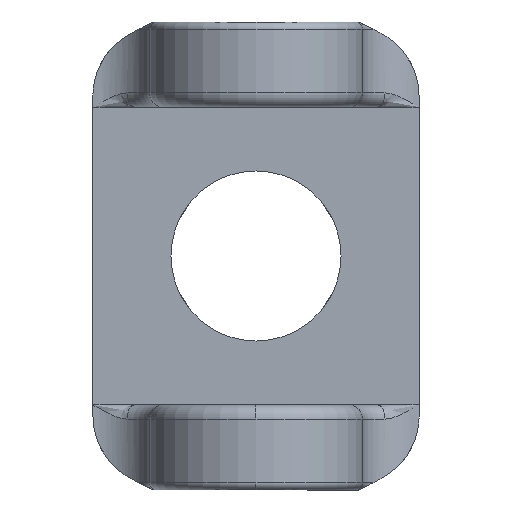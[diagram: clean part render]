
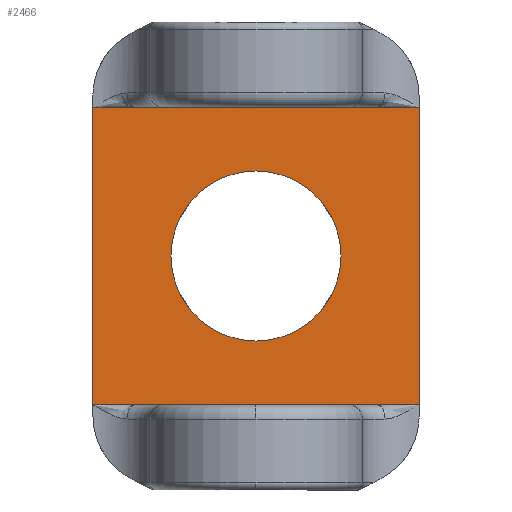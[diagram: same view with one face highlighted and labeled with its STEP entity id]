
A CAD part, left-side view. The second image highlights one B-rep face of the part: STEP entity #2466.
In plain terms, the highlighted planar face has unit normal (-1, 0, 0).
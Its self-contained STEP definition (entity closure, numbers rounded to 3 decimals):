
#11 = AXIS2_PLACEMENT_3D ( 'NONE', #2886, #3134, #3186 ) ;
#118 = DIRECTION ( 'NONE',  ( 0., 0., 1. ) ) ;
#125 = EDGE_CURVE ( 'NONE', #2542, #1724, #1445, .T. ) ;
#261 = ORIENTED_EDGE ( 'NONE', *, *, #2002, .T. ) ;
#266 = ORIENTED_EDGE ( 'NONE', *, *, #3130, .F. ) ;
#283 = CARTESIAN_POINT ( 'NONE',  ( 385.63, -811.782, 6. ) ) ;
#310 = CARTESIAN_POINT ( 'NONE',  ( 385.63, -801.432, 5. ) ) ;
#334 = EDGE_CURVE ( 'NONE', #898, #1448, #2958, .T. ) ;
#680 = DIRECTION ( 'NONE',  ( -1., 0., 0. ) ) ;
#755 = EDGE_CURVE ( 'NONE', #1953, #2059, #2237, .T. ) ;
#758 = LINE ( 'NONE', #2749, #2123 ) ;
#800 = DIRECTION ( 'NONE',  ( 0., -1., 0. ) ) ;
#866 = DIRECTION ( 'NONE',  ( 0., -1., 0. ) ) ;
#884 = VERTEX_POINT ( 'NONE', #2677 ) ;
#897 = CARTESIAN_POINT ( 'NONE',  ( 385.63, -811.782, 27. ) ) ;
#898 = VERTEX_POINT ( 'NONE', #952 ) ;
#918 = EDGE_CURVE ( 'NONE', #2059, #1724, #967, .T. ) ;
#952 = CARTESIAN_POINT ( 'NONE',  ( 385.63, -823.282, 22.5 ) ) ;
#967 = LINE ( 'NONE', #2154, #1837 ) ;
#976 = EDGE_CURVE ( 'NONE', #3437, #2908, #758, .T. ) ;
#1120 = VERTEX_POINT ( 'NONE', #2551 ) ;
#1167 = DIRECTION ( 'NONE',  ( 1., 0., 0. ) ) ;
#1193 = ORIENTED_EDGE ( 'NONE', *, *, #918, .F. ) ;
#1208 = ORIENTED_EDGE ( 'NONE', *, *, #755, .F. ) ;
#1252 = VECTOR ( 'NONE', #3246, 1000. ) ;
#1348 = CARTESIAN_POINT ( 'NONE',  ( 385.63, -811.782, 27. ) ) ;
#1371 = CARTESIAN_POINT ( 'NONE',  ( 385.63, -834.782, 27. ) ) ;
#1377 = CARTESIAN_POINT ( 'NONE',  ( 385.63, -834.782, 6. ) ) ;
#1441 = EDGE_CURVE ( 'NONE', #3437, #1120, #2278, .T. ) ;
#1445 = LINE ( 'NONE', #283, #2876 ) ;
#1448 = VERTEX_POINT ( 'NONE', #3524 ) ;
#1477 = CARTESIAN_POINT ( 'NONE',  ( 385.63, -823.282, 16.5 ) ) ;
#1637 = LINE ( 'NONE', #1880, #3576 ) ;
#1724 = VERTEX_POINT ( 'NONE', #1377 ) ;
#1725 = DIRECTION ( 'NONE',  ( 0., -1., 0. ) ) ;
#1735 = FACE_OUTER_BOUND ( 'NONE', #2754, .T. ) ;
#1766 = VECTOR ( 'NONE', #2508, 1000. ) ;
#1837 = VECTOR ( 'NONE', #3271, 1000. ) ;
#1841 = AXIS2_PLACEMENT_3D ( 'NONE', #310, #1167, #3362 ) ;
#1865 = CARTESIAN_POINT ( 'NONE',  ( 385.63, -831.782, 27. ) ) ;
#1874 = DIRECTION ( 'NONE',  ( 0., -1., 0. ) ) ;
#1880 = CARTESIAN_POINT ( 'NONE',  ( 385.63, -811.782, 6. ) ) ;
#1953 = VERTEX_POINT ( 'NONE', #1865 ) ;
#2002 = EDGE_CURVE ( 'NONE', #1120, #2542, #1637, .T. ) ;
#2046 = VECTOR ( 'NONE', #866, 1000. ) ;
#2059 = VERTEX_POINT ( 'NONE', #1371 ) ;
#2111 = ORIENTED_EDGE ( 'NONE', *, *, #3044, .F. ) ;
#2123 = VECTOR ( 'NONE', #2464, 1000. ) ;
#2154 = CARTESIAN_POINT ( 'NONE',  ( 385.63, -834.782, 30.347 ) ) ;
#2177 = ORIENTED_EDGE ( 'NONE', *, *, #1441, .T. ) ;
#2207 = CIRCLE ( 'NONE', #11, 6. ) ;
#2237 = LINE ( 'NONE', #3419, #2046 ) ;
#2261 = CARTESIAN_POINT ( 'NONE',  ( 385.63, -811.782, 6. ) ) ;
#2278 = LINE ( 'NONE', #2563, #1252 ) ;
#2282 = FACE_BOUND ( 'NONE', #2398, .T. ) ;
#2398 = EDGE_LOOP ( 'NONE', ( #3080, #2111 ) ) ;
#2464 = DIRECTION ( 'NONE',  ( 0., 0., 1. ) ) ;
#2466 = ADVANCED_FACE ( 'NONE', ( #2282, #1735 ), #2865, .F. ) ;
#2469 = AXIS2_PLACEMENT_3D ( 'NONE', #1477, #680, #118 ) ;
#2508 = DIRECTION ( 'NONE',  ( 0., -1., 0. ) ) ;
#2542 = VERTEX_POINT ( 'NONE', #2885 ) ;
#2551 = CARTESIAN_POINT ( 'NONE',  ( 385.63, -814.782, 6. ) ) ;
#2563 = CARTESIAN_POINT ( 'NONE',  ( 385.63, -811.782, 6. ) ) ;
#2676 = ORIENTED_EDGE ( 'NONE', *, *, #125, .T. ) ;
#2677 = CARTESIAN_POINT ( 'NONE',  ( 385.63, -814.782, 27. ) ) ;
#2749 = CARTESIAN_POINT ( 'NONE',  ( 385.63, -811.782, 2.653 ) ) ;
#2754 = EDGE_LOOP ( 'NONE', ( #2177, #261, #2676, #1193, #1208, #3093, #266, #3001 ) ) ;
#2865 = PLANE ( 'NONE',  #1841 ) ;
#2876 = VECTOR ( 'NONE', #1725, 1000. ) ;
#2885 = CARTESIAN_POINT ( 'NONE',  ( 385.63, -831.782, 6. ) ) ;
#2886 = CARTESIAN_POINT ( 'NONE',  ( 385.63, -823.282, 16.5 ) ) ;
#2908 = VERTEX_POINT ( 'NONE', #897 ) ;
#2957 = LINE ( 'NONE', #2991, #3047 ) ;
#2958 = CIRCLE ( 'NONE', #2469, 6. ) ;
#2991 = CARTESIAN_POINT ( 'NONE',  ( 385.63, -811.782, 27. ) ) ;
#3001 = ORIENTED_EDGE ( 'NONE', *, *, #976, .F. ) ;
#3044 = EDGE_CURVE ( 'NONE', #1448, #898, #2207, .T. ) ;
#3047 = VECTOR ( 'NONE', #1874, 1000. ) ;
#3080 = ORIENTED_EDGE ( 'NONE', *, *, #334, .F. ) ;
#3093 = ORIENTED_EDGE ( 'NONE', *, *, #3631, .F. ) ;
#3130 = EDGE_CURVE ( 'NONE', #2908, #884, #2957, .T. ) ;
#3134 = DIRECTION ( 'NONE',  ( -1., 0., 0. ) ) ;
#3186 = DIRECTION ( 'NONE',  ( 0., 0., 1. ) ) ;
#3246 = DIRECTION ( 'NONE',  ( 0., -1., 0. ) ) ;
#3271 = DIRECTION ( 'NONE',  ( 0., 0., -1. ) ) ;
#3362 = DIRECTION ( 'NONE',  ( 0., 0., 1. ) ) ;
#3419 = CARTESIAN_POINT ( 'NONE',  ( 385.63, -811.782, 27. ) ) ;
#3437 = VERTEX_POINT ( 'NONE', #2261 ) ;
#3524 = CARTESIAN_POINT ( 'NONE',  ( 385.63, -823.282, 10.5 ) ) ;
#3576 = VECTOR ( 'NONE', #800, 1000. ) ;
#3631 = EDGE_CURVE ( 'NONE', #884, #1953, #3668, .T. ) ;
#3668 = LINE ( 'NONE', #1348, #1766 ) ;
